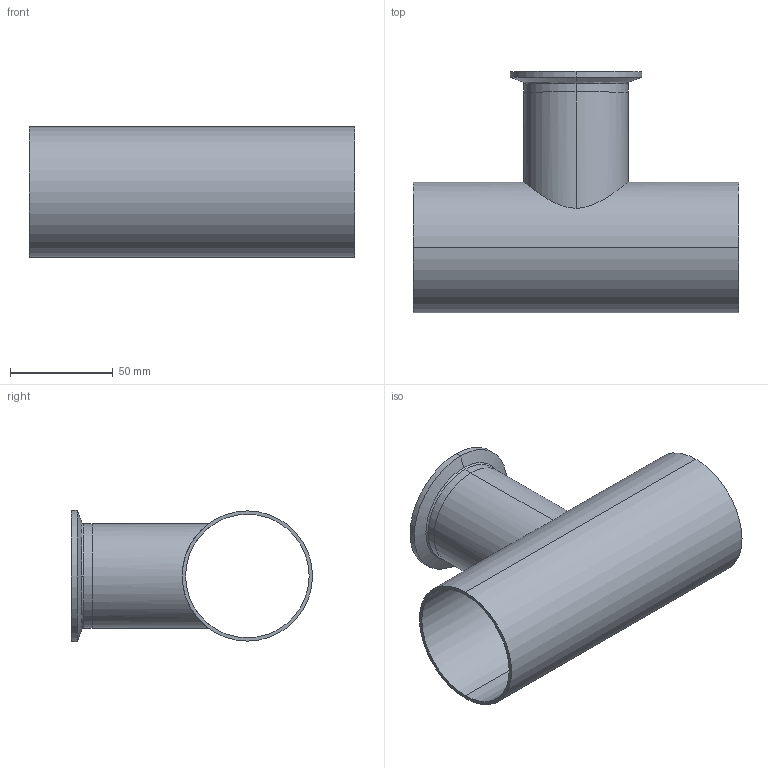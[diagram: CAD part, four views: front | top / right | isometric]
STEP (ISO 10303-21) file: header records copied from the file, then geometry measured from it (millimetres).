
FILE_DESCRIPTION (( 'STEP AP214' ), '1' );
FILE_NAME ('TE7RWWC6L2.5x2.0-...STEP', '2016-05-23T08:41:53', ( 'eran' ), ( '' ), 'SwSTEP 2.0', 'SolidWorks 2016', '' );
FILE_SCHEMA (( 'AUTOMOTIVE_DESIGN' ));
Length unit declared in the file: millimetre
Products named in the file (1): TE7RWWC6L2.5x2.0-..
Bounding box: 158.8 x 117.45 x 63.91 mm (x, y, z)
Volume: 67333.3 mm3; surface area: 79793 mm2
Topology: 2 solids, 2 shells, 36 faces, 88 edges, 58 vertices
Faces by surface type: cylinder 14, bspline 10, plane 6, cone 6
Entity records: 2060 total; most frequent: CARTESIAN_POINT 1155, DIRECTION 190, ORIENTED_EDGE 176, EDGE_CURVE 88, AXIS2_PLACEMENT_3D 85, VERTEX_POINT 58, CIRCLE 58, EDGE_LOOP 44
